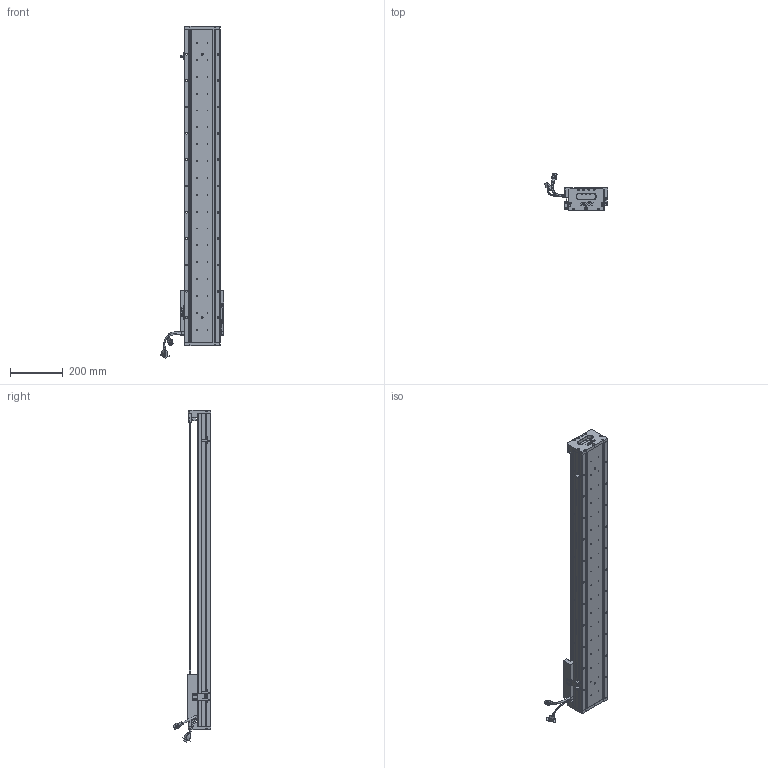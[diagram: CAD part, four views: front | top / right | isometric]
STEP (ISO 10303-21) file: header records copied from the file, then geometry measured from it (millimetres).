
FILE_DESCRIPTION (( 'STEP AP203' ), '1' );
FILE_NAME ('Z2-RY140D-1-L500-B-K.SLDASM_0950.step', '2021-05-17T07:45:41', ( '盈信电脑' ), ( '东莞市道滘镇水果街19号' ), 'SwSTEP 2.0', 'SolidWorks 2016', '' );
FILE_SCHEMA (( 'CONFIG_CONTROL_DESIGN' ));
Length unit declared in the file: millimetre
Products named in the file (36): LABEL-Part-1; COVER-Part-1; 140-Z-臏賑輸盄裔(21遴); SCREW-M1.6-3; PSLH080_PSLF2; Z-RY140詩湍狟揤裔; HARNESS-Part-2; SCALE; HOLDER0; Z2-RY140-L500直线电机模组底座_0950; SCALE-Part-1; SCREW-M1.6-1; 榋妏寠巭燃_暯_M2_2; SEAL; SCREW-M1.6; SCREW-M1.7-1; Z2-RY140D-1-L500-B-K.SLDASM_0950; LABEL; SCALE-Part-2; HARNESS; HARNESS-Part-1; Z-RY140詩湍奻揤裔; SCREW-M1.7; 080黍杅芛假蚾釱21遴; Z2-RY140-L500詩湍100mm遵_0950; Z-RY140感应器672光电感应片; PBU_SHEET; SCREW-M1.6-2; SHIELDPLATE; Z-140詩湍傷裔啣; 140雄赽晤鎢ん堤盄; 140蚥薯蝶輸; 覜茼ん672; SEAL-Part-1; Z2-RY140圉猾敕臏賑輸(21遴); COVER
Assembly tree (41 placements, depth 4):
  Z2-RY140D-1-L500-B-K.SLDASM_0950
    Z2-RY140-L500直线电机模组底座_0950
    Z-RY140感应器672光电感应片
    Z2-RY140圉猾敕臏賑輸(21遴)
    覜茼ん672  x3
    Z2-RY140-L500詩湍100mm遵_0950
    PSLH080_PSLF2
      SCALE
        SCALE-Part-1
        SCALE-Part-2
      HARNESS
        HARNESS-Part-1
        HARNESS-Part-2
      LABEL
        LABEL-Part-1
      COVER
        COVER-Part-1
      SEAL
        SEAL-Part-1
      榋妏寠巭燃_暯_M2_2
      SHIELDPLATE
      SCREW-M1.7
      SCREW-M1.7-1
      PBU_SHEET
      SCREW-M1.6
      SCREW-M1.6-1
      SCREW-M1.6-2
      SCREW-M1.6-3
      HOLDER0
    080黍杅芛假蚾釱21遴
    140-Z-臏賑輸盄裔(21遴)
    Z-140詩湍傷裔啣  x2
    Z-RY140詩湍狟揤裔  x2
    Z-RY140詩湍奻揤裔  x2
    140蚥薯蝶輸  x2
    140雄赽晤鎢ん堤盄
Bounding box: 239.84 x 143.77 x 1260.88 mm (x, y, z)
Volume: 4380517.2 mm3; surface area: 1148612 mm2
Topology: 36 solids, 36 shells, 3044 faces, 8056 edges, 5101 vertices
Faces by surface type: cylinder 1454, plane 1164, cone 294, torus 79, bspline 53
Entity records: 90272 total; most frequent: CARTESIAN_POINT 23413, ORIENTED_EDGE 13232, DIRECTION 12920, EDGE_CURVE 6616, AXIS2_PLACEMENT_3D 4756, VERTEX_POINT 4269, LINE 3408, VECTOR 3408
